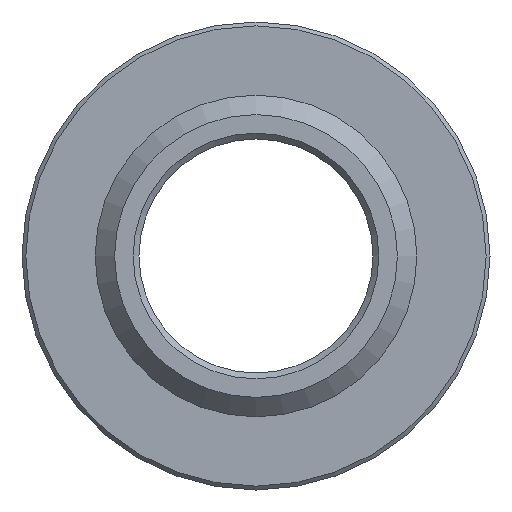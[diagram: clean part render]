
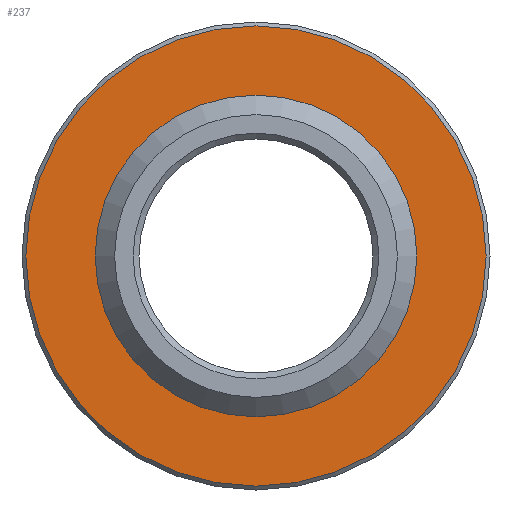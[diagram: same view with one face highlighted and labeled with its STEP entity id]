
A CAD part, front view. The second image highlights one B-rep face of the part: STEP entity #237.
In plain terms, the highlighted planar face has unit normal (0, -1, 0).
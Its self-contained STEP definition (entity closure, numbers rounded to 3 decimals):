
#14=FACE_BOUND('',#44,.T.);
#17=PLANE('',#279);
#30=FACE_OUTER_BOUND('',#43,.T.);
#43=EDGE_LOOP('',(#174));
#44=EDGE_LOOP('',(#175,#176));
#75=CIRCLE('',#267,7.5);
#76=CIRCLE('',#268,7.5);
#84=CIRCLE('',#280,11.8);
#97=VERTEX_POINT('',#385);
#98=VERTEX_POINT('',#386);
#106=VERTEX_POINT('',#411);
#119=EDGE_CURVE('',#97,#98,#75,.T.);
#120=EDGE_CURVE('',#98,#97,#76,.T.);
#132=EDGE_CURVE('',#106,#106,#84,.T.);
#174=ORIENTED_EDGE('',*,*,#132,.F.);
#175=ORIENTED_EDGE('',*,*,#119,.T.);
#176=ORIENTED_EDGE('',*,*,#120,.T.);
#237=ADVANCED_FACE('',(#30,#14),#17,.T.);
#267=AXIS2_PLACEMENT_3D('',#387,#305,#306);
#268=AXIS2_PLACEMENT_3D('',#388,#307,#308);
#279=AXIS2_PLACEMENT_3D('',#410,#333,#334);
#280=AXIS2_PLACEMENT_3D('',#412,#335,#336);
#305=DIRECTION('center_axis',(0.,1.,0.));
#306=DIRECTION('ref_axis',(1.,0.,0.));
#307=DIRECTION('center_axis',(0.,1.,0.));
#308=DIRECTION('ref_axis',(1.,0.,0.));
#333=DIRECTION('center_axis',(0.,-1.,0.));
#334=DIRECTION('ref_axis',(0.,0.,-1.));
#335=DIRECTION('center_axis',(0.,1.,0.));
#336=DIRECTION('ref_axis',(1.,0.,0.));
#385=CARTESIAN_POINT('',(-7.5,10.,0.));
#386=CARTESIAN_POINT('',(7.5,10.,0.));
#387=CARTESIAN_POINT('Origin',(0.,10.,0.));
#388=CARTESIAN_POINT('Origin',(0.,10.,0.));
#410=CARTESIAN_POINT('Origin',(-12.,10.,0.));
#411=CARTESIAN_POINT('',(-11.8,10.,0.));
#412=CARTESIAN_POINT('Origin',(0.,10.,0.));
